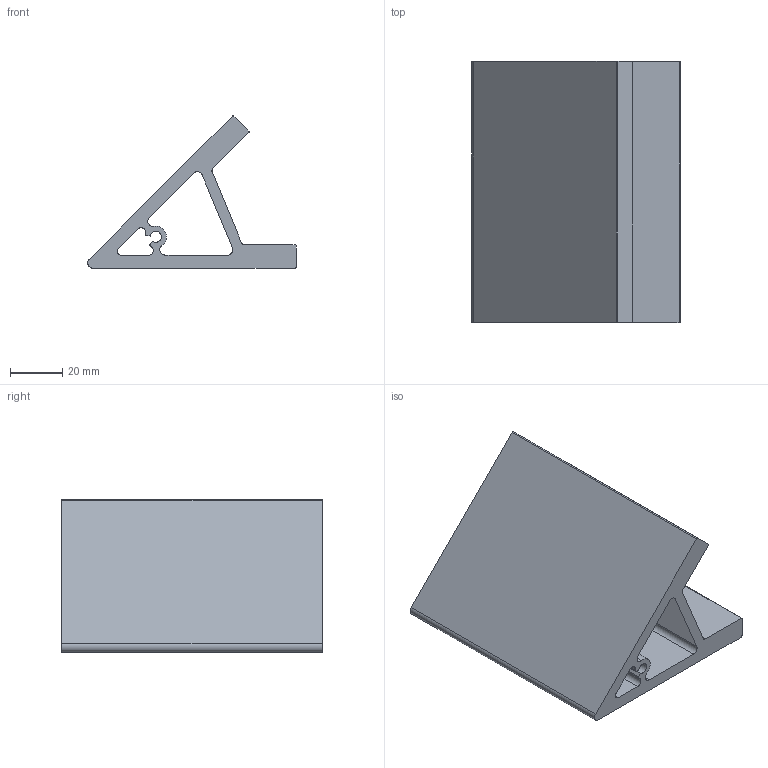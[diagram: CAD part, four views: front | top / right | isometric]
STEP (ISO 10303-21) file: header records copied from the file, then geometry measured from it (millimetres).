
FILE_DESCRIPTION(/* description */ ('Unknown'),/* implementation_level */ '2;1');
FILE_NAME(/* name */ 'AAG08008009',/* time_stamp */ '2018-10-17T09:34:20+01:00',/* author */ ('Unknown'),/* organization */ ('Unknown'),/* preprocessor_version */ 'ST-DEVELOPER v16.7',/* originating_system */ 'DEX',/* authorisation */ $);
FILE_SCHEMA (('AUTOMOTIVE_DESIGN {1 0 10303 214 3 1 1}'));
Length unit declared in the file: millimetre
Products named in the file (1): AAG08008009
Bounding box: 80 x 100 x 58.36 mm (x, y, z)
Volume: 113158.5 mm3; surface area: 42972.7 mm2
Topology: 1 solids, 1 shells, 34 faces, 96 edges, 64 vertices
Faces by surface type: cylinder 18, plane 16
Entity records: 1154 total; most frequent: DIRECTION 202, CARTESIAN_POINT 195, ORIENTED_EDGE 192, EDGE_CURVE 96, AXIS2_PLACEMENT_3D 71, VERTEX_POINT 64, LINE 60, VECTOR 60
